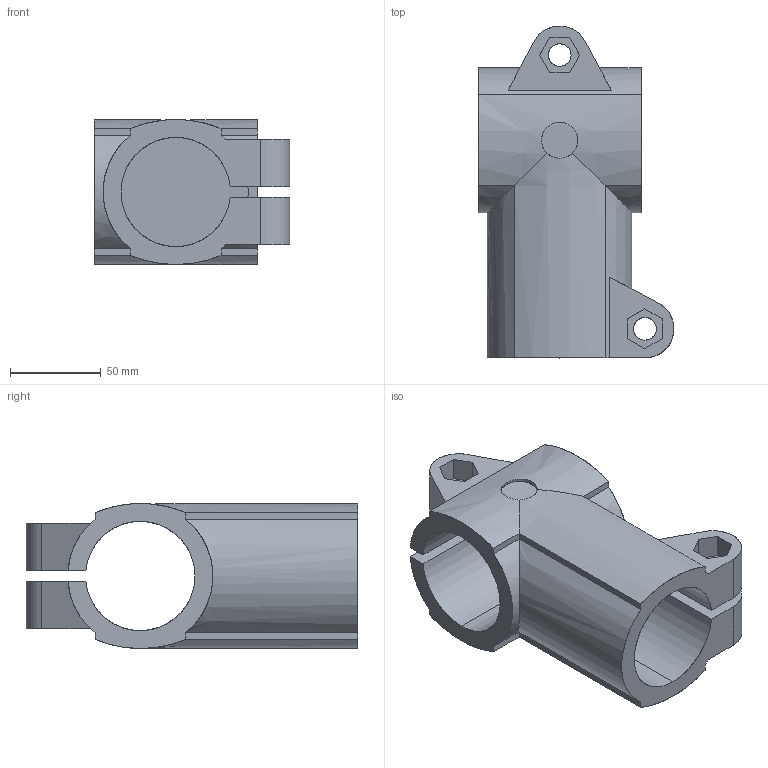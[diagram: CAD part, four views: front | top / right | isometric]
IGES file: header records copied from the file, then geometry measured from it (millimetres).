
Start section: SolidWorks IGES file using analytic representation for surfaces
Global section: file name: R:\Inventor\Kundmodeller Solidworks\Fästen\Straight bracket 041J004325.IGS; native system: SolidWorks 2008; preprocessor: SolidWorks 2008; author: Johan; date: 091015.081806; units: millimetre
Bounding box: 108 x 183 x 80 mm (x, y, z)
Surface area: 99559.2 mm2 (no closed solid volume)
Topology: 0 solids, 0 shells, 93 faces, 1484 edges, 1484 vertices
Faces by surface type: bspline 57, revolution 36
